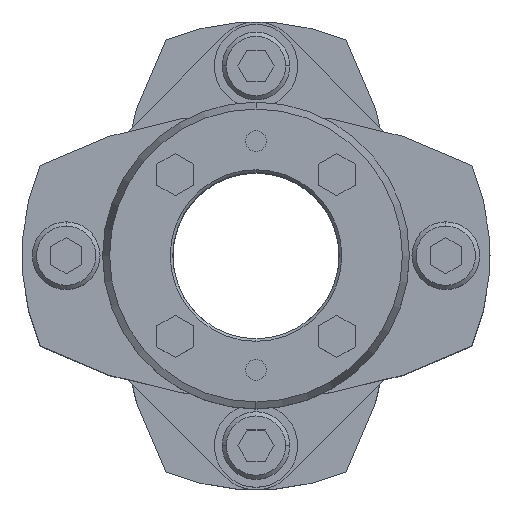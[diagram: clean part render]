
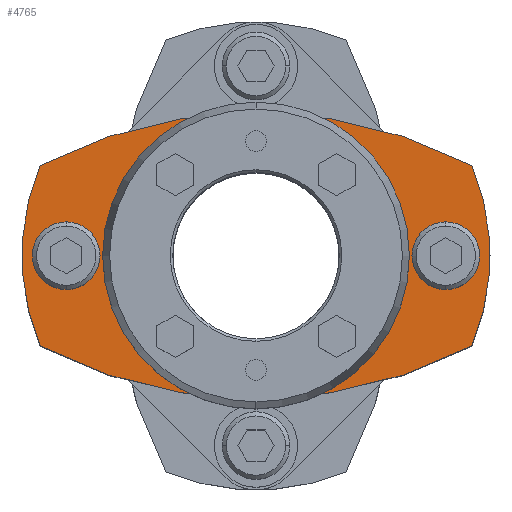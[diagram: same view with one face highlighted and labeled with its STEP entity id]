
A CAD part, top view. The second image highlights one B-rep face of the part: STEP entity #4765.
In plain terms, the highlighted planar face has unit normal (0, 0, 1).
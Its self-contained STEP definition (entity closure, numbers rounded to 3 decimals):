
#2205=CARTESIAN_POINT('',(0.,-27.5,27.0));
#2206=VERTEX_POINT('',#2205);
#2215=CARTESIAN_POINT('',(-41.521,-17.35,27.0));
#2216=VERTEX_POINT('',#2215);
#2217=CARTESIAN_POINT('',(0.,62.5,27.0));
#2218=DIRECTION('',(0.0,0.0,-1.0));
#2219=DIRECTION('',(0.0,1.0,0.0));
#2220=AXIS2_PLACEMENT_3D('',#2217,#2218,#2219);
#2221=CIRCLE('',#2220,90.);
#2222=EDGE_CURVE('',#2206,#2216,#2221,.T.);
#2249=CARTESIAN_POINT('',(0.,27.5,27.0));
#2250=VERTEX_POINT('',#2249);
#2266=CARTESIAN_POINT('',(-41.521,17.35,27.0));
#2267=VERTEX_POINT('',#2266);
#2274=CARTESIAN_POINT('',(0.,-62.5,27.0));
#2275=DIRECTION('',(0.0,0.0,-1.0));
#2276=DIRECTION('',(0.0,1.0,0.0));
#2277=AXIS2_PLACEMENT_3D('',#2274,#2275,#2276);
#2278=CIRCLE('',#2277,90.);
#2279=EDGE_CURVE('',#2267,#2250,#2278,.T.);
#2513=CARTESIAN_POINT('',(0.,26.,27.0));
#2514=VERTEX_POINT('',#2513);
#2564=CARTESIAN_POINT('',(0.,-26.,27.0));
#2565=VERTEX_POINT('',#2564);
#2572=CARTESIAN_POINT('',(0.,0.,27.0));
#2573=DIRECTION('',(0.0,0.0,-1.0));
#2574=DIRECTION('',(0.0,1.0,0.0));
#2575=AXIS2_PLACEMENT_3D('',#2572,#2573,#2574);
#2576=CIRCLE('',#2575,26.0);
#2577=EDGE_CURVE('',#2514,#2565,#2576,.T.);
#2589=CARTESIAN_POINT('',(-36.5,6.5,27.0));
#2590=VERTEX_POINT('',#2589);
#2606=CARTESIAN_POINT('',(-36.5,-6.5,27.0));
#2607=VERTEX_POINT('',#2606);
#2614=CARTESIAN_POINT('',(-36.5,0.,27.0));
#2615=DIRECTION('',(0.0,0.0,-1.0));
#2616=DIRECTION('',(0.0,1.0,0.0));
#2617=AXIS2_PLACEMENT_3D('',#2614,#2615,#2616);
#2618=CIRCLE('',#2617,6.5);
#2619=EDGE_CURVE('',#2590,#2607,#2618,.T.);
#2663=CARTESIAN_POINT('',(36.5,6.5,27.0));
#2664=VERTEX_POINT('',#2663);
#2680=CARTESIAN_POINT('',(36.5,-6.5,27.0));
#2681=VERTEX_POINT('',#2680);
#2688=CARTESIAN_POINT('',(36.5,0.,27.0));
#2689=DIRECTION('',(0.0,0.0,-1.0));
#2690=DIRECTION('',(0.0,1.0,0.0));
#2691=AXIS2_PLACEMENT_3D('',#2688,#2689,#2690);
#2692=CIRCLE('',#2691,6.5);
#2693=EDGE_CURVE('',#2664,#2681,#2692,.T.);
#4184=CARTESIAN_POINT('',(36.5,0.,27.0));
#4185=DIRECTION('',(0.0,0.0,-1.0));
#4186=DIRECTION('',(0.0,1.0,0.0));
#4187=AXIS2_PLACEMENT_3D('',#4184,#4185,#4186);
#4188=CIRCLE('',#4187,6.5);
#4189=EDGE_CURVE('',#2681,#2664,#4188,.T.);
#4244=CARTESIAN_POINT('',(-36.5,0.,27.0));
#4245=DIRECTION('',(0.0,0.0,-1.0));
#4246=DIRECTION('',(0.0,1.0,0.0));
#4247=AXIS2_PLACEMENT_3D('',#4244,#4245,#4246);
#4248=CIRCLE('',#4247,6.5);
#4249=EDGE_CURVE('',#2607,#2590,#4248,.T.);
#4448=CARTESIAN_POINT('',(0.,0.,27.0));
#4449=DIRECTION('',(0.0,0.0,-1.0));
#4450=DIRECTION('',(0.0,1.0,0.0));
#4451=AXIS2_PLACEMENT_3D('',#4448,#4449,#4450);
#4452=CIRCLE('',#4451,26.0);
#4453=EDGE_CURVE('',#2565,#2514,#4452,.T.);
#4659=CARTESIAN_POINT('',(0.,0.,27.0));
#4660=DIRECTION('',(0.0,0.0,-1.0));
#4661=DIRECTION('',(0.0,1.0,0.0));
#4662=AXIS2_PLACEMENT_3D('',#4659,#4660,#4661);
#4663=CIRCLE('',#4662,45.);
#4664=EDGE_CURVE('',#2216,#2267,#4663,.T.);
#4678=CARTESIAN_POINT('',(41.521,17.35,27.0));
#4679=VERTEX_POINT('',#4678);
#4680=CARTESIAN_POINT('',(0.,-62.5,27.0));
#4681=DIRECTION('',(0.0,0.0,-1.0));
#4682=DIRECTION('',(0.0,1.0,0.0));
#4683=AXIS2_PLACEMENT_3D('',#4680,#4681,#4682);
#4684=CIRCLE('',#4683,90.);
#4685=EDGE_CURVE('',#2250,#4679,#4684,.T.);
#4702=CARTESIAN_POINT('',(41.521,-17.35,27.0));
#4703=VERTEX_POINT('',#4702);
#4704=CARTESIAN_POINT('',(0.,0.,27.0));
#4705=DIRECTION('',(0.0,0.0,-1.0));
#4706=DIRECTION('',(0.0,1.0,0.0));
#4707=AXIS2_PLACEMENT_3D('',#4704,#4705,#4706);
#4708=CIRCLE('',#4707,45.);
#4709=EDGE_CURVE('',#4679,#4703,#4708,.T.);
#4730=CARTESIAN_POINT('',(0.,62.5,27.0));
#4731=DIRECTION('',(0.0,0.0,-1.0));
#4732=DIRECTION('',(0.0,1.0,0.0));
#4733=AXIS2_PLACEMENT_3D('',#4730,#4731,#4732);
#4734=CIRCLE('',#4733,90.);
#4735=EDGE_CURVE('',#4703,#2206,#4734,.T.);
#4740=CARTESIAN_POINT('',(0.,0.,27.0));
#4741=DIRECTION('',(0.0,0.0,1.0));
#4742=DIRECTION('',(0.0,1.0,0.0));
#4743=AXIS2_PLACEMENT_3D('',#4740,#4741,#4742);
#4744=PLANE('',#4743);
#4745=ORIENTED_EDGE('',*,*,#4664,.F.);
#4746=ORIENTED_EDGE('',*,*,#2222,.F.);
#4747=ORIENTED_EDGE('',*,*,#4735,.F.);
#4748=ORIENTED_EDGE('',*,*,#4709,.F.);
#4749=ORIENTED_EDGE('',*,*,#4685,.F.);
#4750=ORIENTED_EDGE('',*,*,#2279,.F.);
#4751=EDGE_LOOP('',(#4745,#4746,#4747,#4748,#4749,#4750));
#4752=FACE_OUTER_BOUND('',#4751,.T.);
#4753=ORIENTED_EDGE('',*,*,#2619,.T.);
#4754=ORIENTED_EDGE('',*,*,#4249,.T.);
#4755=EDGE_LOOP('',(#4753,#4754));
#4756=FACE_BOUND('',#4755,.T.);
#4757=ORIENTED_EDGE('',*,*,#2693,.T.);
#4758=ORIENTED_EDGE('',*,*,#4189,.T.);
#4759=EDGE_LOOP('',(#4757,#4758));
#4760=FACE_BOUND('',#4759,.T.);
#4761=ORIENTED_EDGE('',*,*,#2577,.T.);
#4762=ORIENTED_EDGE('',*,*,#4453,.T.);
#4763=EDGE_LOOP('',(#4761,#4762));
#4764=FACE_BOUND('',#4763,.T.);
#4765=ADVANCED_FACE('',(#4752,#4756,#4760,#4764),#4744,.T.);
